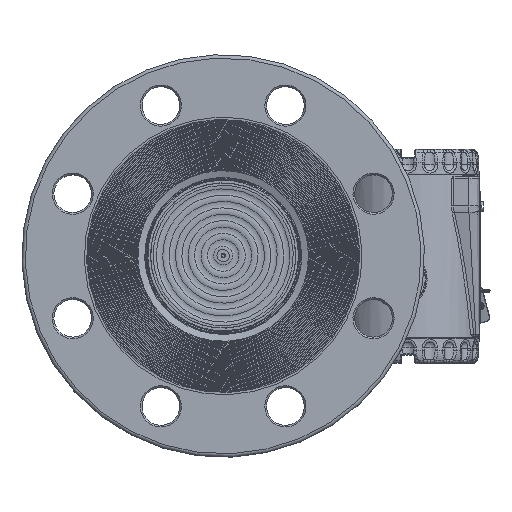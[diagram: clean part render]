
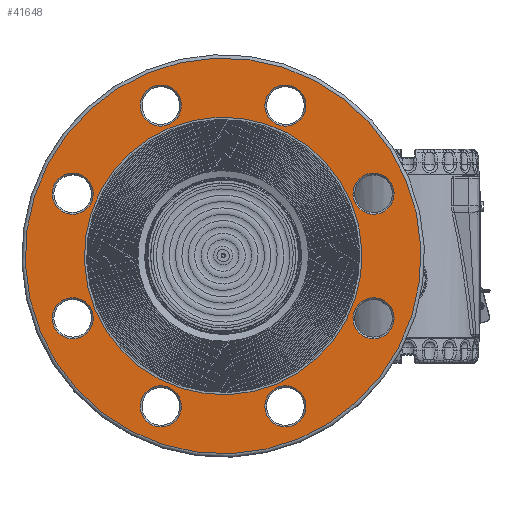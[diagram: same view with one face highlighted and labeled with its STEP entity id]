
A CAD part, top view. The second image highlights one B-rep face of the part: STEP entity #41648.
In plain terms, the highlighted planar face has unit normal (0, 0, 1).
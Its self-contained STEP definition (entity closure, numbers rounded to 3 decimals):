
#695=FACE_BOUND('',#6947,.T.);
#696=FACE_BOUND('',#6948,.T.);
#697=FACE_BOUND('',#6949,.T.);
#698=FACE_BOUND('',#6950,.T.);
#699=FACE_BOUND('',#6951,.T.);
#700=FACE_BOUND('',#6952,.T.);
#701=FACE_BOUND('',#6953,.T.);
#702=FACE_BOUND('',#6954,.T.);
#703=FACE_BOUND('',#6955,.T.);
#2716=PLANE('',#46337);
#4150=FACE_OUTER_BOUND('',#6946,.T.);
#6946=EDGE_LOOP('',(#31864));
#6947=EDGE_LOOP('',(#31865));
#6948=EDGE_LOOP('',(#31866));
#6949=EDGE_LOOP('',(#31867));
#6950=EDGE_LOOP('',(#31868));
#6951=EDGE_LOOP('',(#31869));
#6952=EDGE_LOOP('',(#31870));
#6953=EDGE_LOOP('',(#31871));
#6954=EDGE_LOOP('',(#31872));
#6955=EDGE_LOOP('',(#31873));
#13791=CIRCLE('',#46336,115.5);
#13792=CIRCLE('',#46338,12.);
#13793=CIRCLE('',#46339,12.);
#13794=CIRCLE('',#46340,12.);
#13795=CIRCLE('',#46341,12.);
#13796=CIRCLE('',#46342,81.);
#13797=CIRCLE('',#46343,12.);
#13798=CIRCLE('',#46344,12.);
#13799=CIRCLE('',#46345,12.);
#13800=CIRCLE('',#46346,12.);
#18326=VERTEX_POINT('',#73745);
#18327=VERTEX_POINT('',#73749);
#18328=VERTEX_POINT('',#73751);
#18329=VERTEX_POINT('',#73753);
#18330=VERTEX_POINT('',#73755);
#18331=VERTEX_POINT('',#73757);
#18332=VERTEX_POINT('',#73759);
#18333=VERTEX_POINT('',#73761);
#18334=VERTEX_POINT('',#73763);
#18335=VERTEX_POINT('',#73765);
#23132=EDGE_CURVE('',#18326,#18326,#13791,.T.);
#23133=EDGE_CURVE('',#18327,#18327,#13792,.T.);
#23134=EDGE_CURVE('',#18328,#18328,#13793,.T.);
#23135=EDGE_CURVE('',#18329,#18329,#13794,.T.);
#23136=EDGE_CURVE('',#18330,#18330,#13795,.T.);
#23137=EDGE_CURVE('',#18331,#18331,#13796,.T.);
#23138=EDGE_CURVE('',#18332,#18332,#13797,.T.);
#23139=EDGE_CURVE('',#18333,#18333,#13798,.T.);
#23140=EDGE_CURVE('',#18334,#18334,#13799,.T.);
#23141=EDGE_CURVE('',#18335,#18335,#13800,.T.);
#31864=ORIENTED_EDGE('',*,*,#23132,.F.);
#31865=ORIENTED_EDGE('',*,*,#23133,.F.);
#31866=ORIENTED_EDGE('',*,*,#23134,.F.);
#31867=ORIENTED_EDGE('',*,*,#23135,.F.);
#31868=ORIENTED_EDGE('',*,*,#23136,.F.);
#31869=ORIENTED_EDGE('',*,*,#23137,.F.);
#31870=ORIENTED_EDGE('',*,*,#23138,.F.);
#31871=ORIENTED_EDGE('',*,*,#23139,.F.);
#31872=ORIENTED_EDGE('',*,*,#23140,.F.);
#31873=ORIENTED_EDGE('',*,*,#23141,.F.);
#41648=ADVANCED_FACE('',(#4150,#695,#696,#697,#698,#699,#700,#701,#702,
#703),#2716,.T.);
#46336=AXIS2_PLACEMENT_3D('',#73747,#54690,#54691);
#46337=AXIS2_PLACEMENT_3D('',#73748,#54692,#54693);
#46338=AXIS2_PLACEMENT_3D('',#73750,#54694,#54695);
#46339=AXIS2_PLACEMENT_3D('',#73752,#54696,#54697);
#46340=AXIS2_PLACEMENT_3D('',#73754,#54698,#54699);
#46341=AXIS2_PLACEMENT_3D('',#73756,#54700,#54701);
#46342=AXIS2_PLACEMENT_3D('',#73758,#54702,#54703);
#46343=AXIS2_PLACEMENT_3D('',#73760,#54704,#54705);
#46344=AXIS2_PLACEMENT_3D('',#73762,#54706,#54707);
#46345=AXIS2_PLACEMENT_3D('',#73764,#54708,#54709);
#46346=AXIS2_PLACEMENT_3D('',#73766,#54710,#54711);
#54690=DIRECTION('center_axis',(0.,0.,-1.));
#54691=DIRECTION('ref_axis',(-1.,0.,0.));
#54692=DIRECTION('center_axis',(0.,0.,1.));
#54693=DIRECTION('ref_axis',(1.,0.,0.));
#54694=DIRECTION('center_axis',(0.,0.,1.));
#54695=DIRECTION('ref_axis',(-0.707,0.707,0.));
#54696=DIRECTION('center_axis',(0.,0.,1.));
#54697=DIRECTION('ref_axis',(0.707,0.707,0.));
#54698=DIRECTION('center_axis',(0.,0.,1.));
#54699=DIRECTION('ref_axis',(-0.707,-0.707,0.));
#54700=DIRECTION('center_axis',(0.,0.,1.));
#54701=DIRECTION('ref_axis',(0.,-1.,0.));
#54702=DIRECTION('center_axis',(0.,0.,1.));
#54703=DIRECTION('ref_axis',(-1.,0.,0.));
#54704=DIRECTION('center_axis',(0.,0.,1.));
#54705=DIRECTION('ref_axis',(0.707,-0.707,0.));
#54706=DIRECTION('center_axis',(0.,0.,1.));
#54707=DIRECTION('ref_axis',(-1.,0.,0.));
#54708=DIRECTION('center_axis',(0.,0.,1.));
#54709=DIRECTION('ref_axis',(1.,0.,0.));
#54710=DIRECTION('center_axis',(0.,0.,1.));
#54711=DIRECTION('ref_axis',(0.,1.,0.));
#73745=CARTESIAN_POINT('',(115.5,0.,21.));
#73747=CARTESIAN_POINT('Origin',(0.,0.,21.));
#73748=CARTESIAN_POINT('Origin',(0.,0.,21.));
#73749=CARTESIAN_POINT('',(75.66,58.69,21.));
#73750=CARTESIAN_POINT('Origin',(67.175,67.175,21.));
#73751=CARTESIAN_POINT('',(58.69,-75.66,21.));
#73752=CARTESIAN_POINT('Origin',(67.175,-67.175,21.));
#73753=CARTESIAN_POINT('',(-58.69,75.66,21.));
#73754=CARTESIAN_POINT('Origin',(-67.175,67.175,21.));
#73755=CARTESIAN_POINT('',(-95.,12.,21.));
#73756=CARTESIAN_POINT('Origin',(-95.,0.,21.));
#73757=CARTESIAN_POINT('',(81.,0.,21.));
#73758=CARTESIAN_POINT('Origin',(0.,0.,21.));
#73759=CARTESIAN_POINT('',(-75.66,-58.69,21.));
#73760=CARTESIAN_POINT('Origin',(-67.175,-67.175,21.));
#73761=CARTESIAN_POINT('',(12.,95.,21.));
#73762=CARTESIAN_POINT('Origin',(0.,95.,21.));
#73763=CARTESIAN_POINT('',(-12.,-95.,21.));
#73764=CARTESIAN_POINT('Origin',(0.,-95.,21.));
#73765=CARTESIAN_POINT('',(95.,-12.,21.));
#73766=CARTESIAN_POINT('Origin',(95.,0.,21.));
